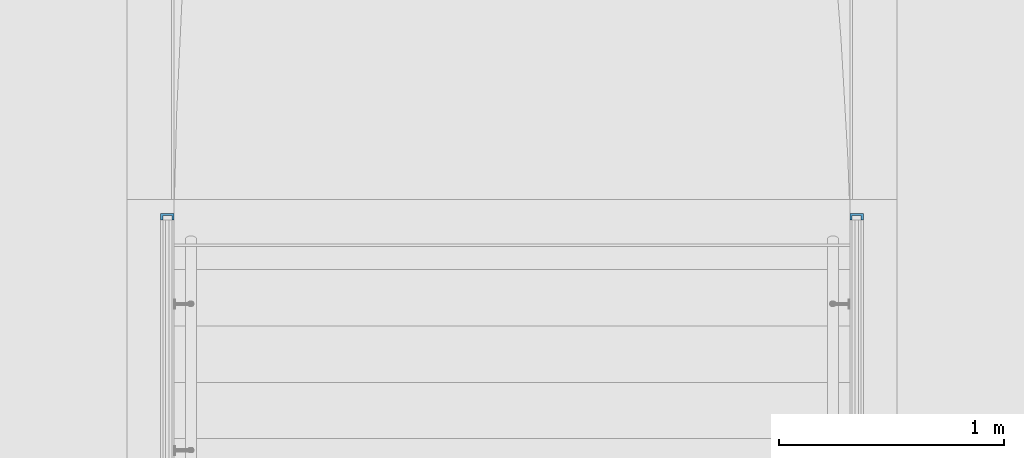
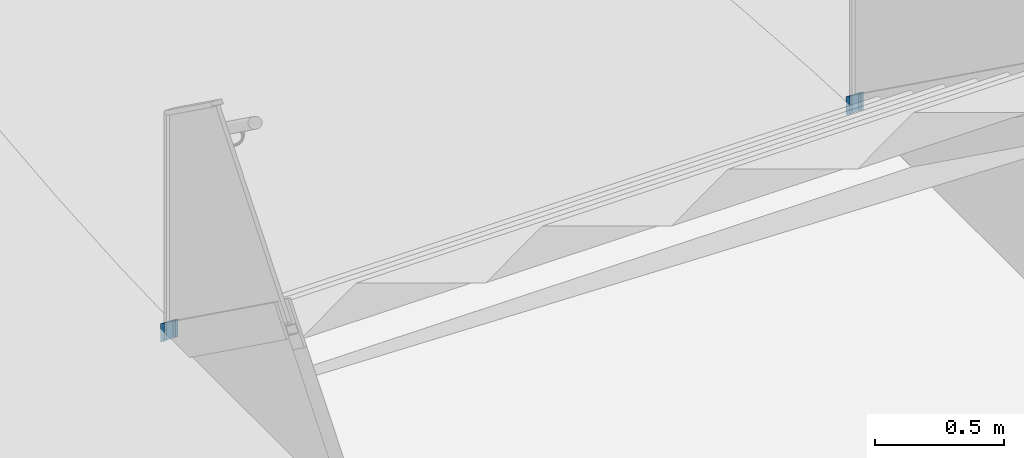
# One storey, part 88 of 347: 2 roofs.
"""IFC2X3 building model written with IfcOpenShell, lengths in millimetres."""

from ifc_helpers import new_model, entity, si_unit, converted_unit, derived_unit, money_unit, direction, frame, origin_with_axes, place, context, subcontext, project, spatial, faceted_brep, material, element, save


model = new_model("IFC2X3")

# Units and contexts
model_context = context("Model", 3, precision=0.01, world=origin_with_axes(), true_north=direction((0.0, 1.0)))
plan_context = context("Plan", 3, precision=0.01, world=origin_with_axes(), true_north=direction((0.0, 1.0)))
body_context = subcontext(model_context, "Body", "Model", "MODEL_VIEW")
ifc_project = project(units=[si_unit("LENGTHUNIT", "METRE", prefix="MILLI"), si_unit("AREAUNIT", "SQUARE_METRE"), si_unit("VOLUMEUNIT", "CUBIC_METRE"), converted_unit("PLANEANGLEUNIT", "DEGREE", entity("IfcPlaneAngleMeasure", 0.0174532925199), si_unit("PLANEANGLEUNIT", "RADIAN"), dimensions=[0, 0, 0, 0, 0, 0, 0]), money_unit("EUR"), converted_unit("TIMEUNIT", "Year", entity("IfcTimeMeasure", 31556926.0), si_unit("TIMEUNIT", "SECOND"), dimensions=[0, 0, 1, 0, 0, 0, 0]), si_unit("MASSUNIT", "GRAM", prefix="KILO"), si_unit("THERMODYNAMICTEMPERATUREUNIT", "DEGREE_CELSIUS"), si_unit("LUMINOUSINTENSITYUNIT", "LUMEN"), si_unit("ENERGYUNIT", "JOULE", prefix="MEGA"), derived_unit("THERMALCONDUCTANCEUNIT", [(si_unit("POWERUNIT", "WATT"), 1), (si_unit("LENGTHUNIT", "METRE"), -1), (si_unit("THERMODYNAMICTEMPERATUREUNIT", "KELVIN"), -1)]), derived_unit("SPECIFICHEATCAPACITYUNIT", [(si_unit("ENERGYUNIT", "JOULE"), 1), (si_unit("MASSUNIT", "GRAM", prefix="KILO"), -1), (si_unit("THERMODYNAMICTEMPERATUREUNIT", "KELVIN"), -1)]), derived_unit("MASSDENSITYUNIT", [(si_unit("MASSUNIT", "GRAM", prefix="KILO"), 1), (si_unit("VOLUMEUNIT", "CUBIC_METRE"), -1)])], contexts=[model_context, plan_context])

# Site, building, storey
site_placement = place(None, origin_with_axes())
site = spatial("IfcSite", under=ifc_project, at=site_placement, Name="Site", CompositionType="ELEMENT")
building_placement = place(site_placement, origin_with_axes())
building = spatial("IfcBuilding", under=site, at=building_placement, Name="Naam gebouw", CompositionType="ELEMENT")
storey_placement = place(building_placement, origin_with_axes())
storey = spatial("IfcBuildingStorey", under=building, at=storey_placement, Name="begane grond", CompositionType="ELEMENT", Elevation=0.0)

# Roofs
ifc_material = material(Name="Metaal - Staal C wit")
roof_1_placement = place(storey_placement, frame((41575.0, 36550.0, 118.37191953), z_axis=(0.0, 0.0, 1.0), x_axis=(1.0, 0.0, 0.0)))
element("IfcRoof", 1, at=roof_1_placement, inside=storey, material=ifc_material, Name="27_Dak-x", ShapeType="NOTDEFINED", context=body_context, shape_type="Brep", body=[
    faceted_brep([(-1.84626003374e-06, 220.000001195, -72.1251893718), (10.0000012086, 220.000001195, -72.1251893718), (10.0000012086, 239.999999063, -86.523127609), (50.0000010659, 239.999999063, -86.523127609), (50.0000010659, 220.000001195, -72.1251893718), (60.0, 220.000001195, -72.1251893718), (60.0, 249.999997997, -93.7220967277), (-1.84626003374e-06, 249.999997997, -93.7220967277), (-2.23577956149e-06, 220.000000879, -158.377338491), (10.000001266, 220.000000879, -158.377338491), (10.000001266, 239.999998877, -172.775276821), (50.0000013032, 239.999998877, -172.775276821), (50.0000013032, 220.000000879, -158.377338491), (60.0000001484, 220.000000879, -158.377338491), (60.0000001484, 249.999998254, -179.974246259), (-2.23577956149e-06, 249.999998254, -179.974246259)], [[[0, 1, 2, 3, 4, 5, 6, 7]], [[1, 0, 8, 9]], [[2, 1, 9, 10]], [[3, 2, 10, 11]], [[4, 3, 11, 12]], [[5, 4, 12, 13]], [[6, 5, 13, 14]], [[7, 6, 14, 15]], [[0, 7, 15, 8]], [[9, 8, 15, 14, 13, 12, 11, 10]]]),
])
roof_2_placement = place(storey_placement, frame((38515.0, 36550.0, 118.37191953), z_axis=(0.0, 0.0, 1.0), x_axis=(1.0, 0.0, 0.0)))
element("IfcRoof", 2, at=roof_2_placement, inside=storey, material=ifc_material, Name="27_Dak-x", ShapeType="NOTDEFINED", context=body_context, shape_type="Brep", body=[
    faceted_brep([(0.0, 249.999997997, -93.7220967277), (0.0, 220.000001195, -72.1251893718), (9.99999893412, 220.000001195, -72.1251893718), (9.99999893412, 239.999999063, -86.523127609), (49.9999987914, 239.999999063, -86.523127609), (49.9999987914, 220.000001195, -72.1251893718), (60.0000018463, 220.000001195, -72.1251893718), (60.0000018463, 249.999997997, -93.7220967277), (-3.89547949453e-07, 249.999998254, -179.974246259), (-3.89547949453e-07, 220.000000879, -158.377338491), (9.99999938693, 220.000000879, -158.377338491), (9.99999938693, 239.999998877, -172.775276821), (49.9999984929, 239.999998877, -172.775276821), (49.9999984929, 220.000000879, -158.377338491), (60.0000019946, 220.000000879, -158.377338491), (60.0000019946, 249.999998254, -179.974246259)], [[[0, 1, 2, 3, 4, 5, 6, 7]], [[1, 0, 8, 9]], [[2, 1, 9, 10]], [[3, 2, 10, 11]], [[4, 3, 11, 12]], [[5, 4, 12, 13]], [[6, 5, 13, 14]], [[7, 6, 14, 15]], [[0, 7, 15, 8]], [[9, 8, 15, 14, 13, 12, 11, 10]]]),
])

save(model, "model.ifc")
